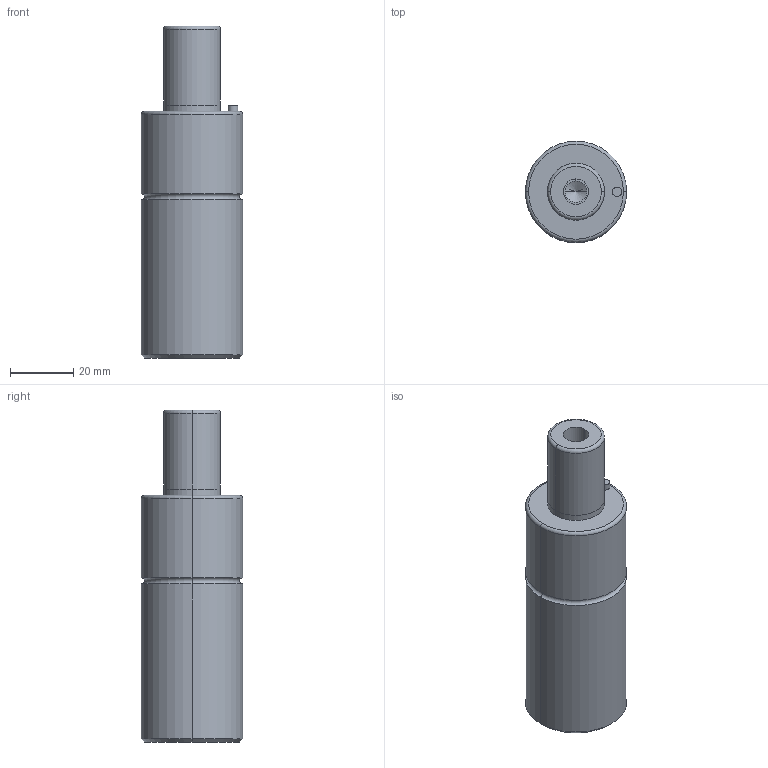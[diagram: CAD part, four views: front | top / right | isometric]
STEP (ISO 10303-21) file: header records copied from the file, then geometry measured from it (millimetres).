
FILE_DESCRIPTION(/* description */ (''),/* implementation_level */ '2;1');
FILE_NAME(/* name */ '3d_gsm32-25_03926_r00.stp',/* time_stamp */ '2011-01-10T14:15:16+09:00',/* author */ ('MISUMI'),/* organization */ (''),/* preprocessor_version */ 'ST-DEVELOPER v11',/* originating_system */ 'UGS - NX 5.0',/* authorisation */ '');
FILE_SCHEMA (('CONFIG_CONTROL_DESIGN'));
Length unit declared in the file: millimetre
Products named in the file (1): 3d_gsm32-25_03926_r00
Bounding box: 32 x 32 x 105 mm (x, y, z)
Volume: 67972.7 mm3; surface area: 11834.2 mm2
Topology: 1 solids, 1 shells, 50 faces, 106 edges, 60 vertices
Faces by surface type: cylinder 26, cone 10, plane 8, torus 6
Entity records: 1382 total; most frequent: DIRECTION 262, CARTESIAN_POINT 209, ORIENTED_EDGE 196, AXIS2_PLACEMENT_3D 113, EDGE_CURVE 98, CIRCLE 62, EDGE_LOOP 60, VERTEX_POINT 60
